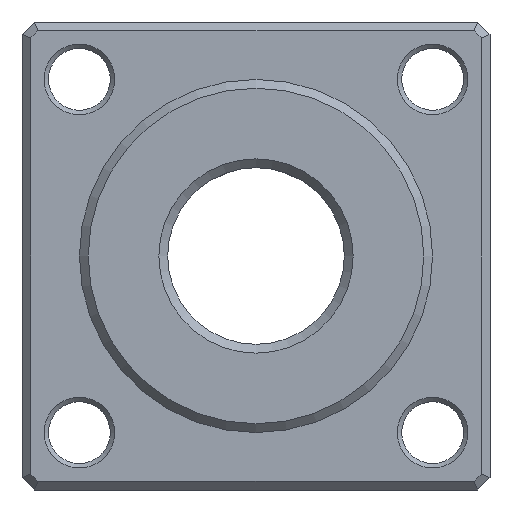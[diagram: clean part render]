
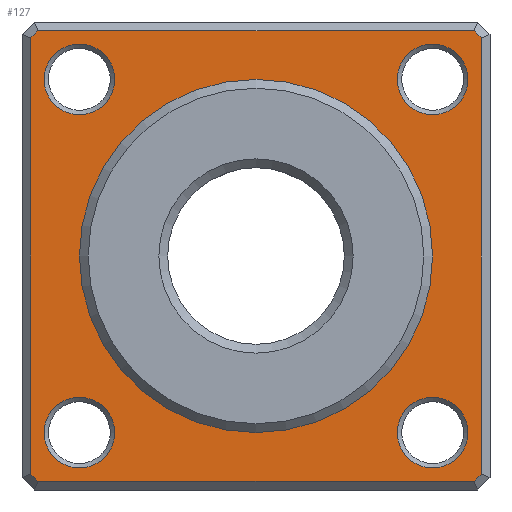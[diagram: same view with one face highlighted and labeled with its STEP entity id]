
A CAD part, left-side view. The second image highlights one B-rep face of the part: STEP entity #127.
In plain terms, the highlighted planar face has unit normal (-1, 0, 0).
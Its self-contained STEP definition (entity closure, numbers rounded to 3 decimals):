
#127=ADVANCED_FACE('',(#199,#200,#201,#202,#203,#204),#205,.F.);
#199=FACE_BOUND('',#363,.T.);
#200=FACE_BOUND('',#364,.T.);
#201=FACE_BOUND('',#365,.T.);
#202=FACE_BOUND('',#366,.T.);
#203=FACE_BOUND('',#367,.T.);
#204=FACE_OUTER_BOUND('',#368,.T.);
#205=PLANE('',#369);
#363=EDGE_LOOP('',(#535));
#364=EDGE_LOOP('',(#536));
#365=EDGE_LOOP('',(#537));
#366=EDGE_LOOP('',(#538));
#367=EDGE_LOOP('',(#539));
#368=EDGE_LOOP('',(#540,#541,#542,#543,#544,#545,#546,#547));
#369=AXIS2_PLACEMENT_3D('',#548,#549,#550);
#535=ORIENTED_EDGE('',*,*,#924,.T.);
#536=ORIENTED_EDGE('',*,*,#925,.T.);
#537=ORIENTED_EDGE('',*,*,#926,.T.);
#538=ORIENTED_EDGE('',*,*,#927,.T.);
#539=ORIENTED_EDGE('',*,*,#923,.F.);
#540=ORIENTED_EDGE('',*,*,#928,.T.);
#541=ORIENTED_EDGE('',*,*,#929,.T.);
#542=ORIENTED_EDGE('',*,*,#930,.T.);
#543=ORIENTED_EDGE('',*,*,#931,.T.);
#544=ORIENTED_EDGE('',*,*,#932,.T.);
#545=ORIENTED_EDGE('',*,*,#933,.T.);
#546=ORIENTED_EDGE('',*,*,#934,.T.);
#547=ORIENTED_EDGE('',*,*,#935,.T.);
#548=CARTESIAN_POINT('',(0.,36.5,0.0));
#549=DIRECTION('',(1.0,0.0,0.0));
#550=DIRECTION('',(0.0,0.0,-1.0));
#923=EDGE_CURVE('',#1038,#1038,#1039,.T.);
#924=EDGE_CURVE('',#1040,#1040,#1041,.T.);
#925=EDGE_CURVE('',#1042,#1042,#1043,.T.);
#926=EDGE_CURVE('',#1044,#1044,#1045,.T.);
#927=EDGE_CURVE('',#1046,#1046,#1047,.T.);
#928=EDGE_CURVE('',#1048,#1049,#1050,.F.);
#929=EDGE_CURVE('',#1049,#1051,#1052,.T.);
#930=EDGE_CURVE('',#1051,#1053,#1054,.F.);
#931=EDGE_CURVE('',#1053,#1055,#1056,.T.);
#932=EDGE_CURVE('',#1055,#1057,#1058,.F.);
#933=EDGE_CURVE('',#1057,#1059,#1060,.T.);
#934=EDGE_CURVE('',#1059,#1061,#1062,.F.);
#935=EDGE_CURVE('',#1061,#1048,#1063,.T.);
#1038=VERTEX_POINT('',#1344);
#1039=CIRCLE('',#1345,20.0);
#1040=VERTEX_POINT('',#1346);
#1041=CIRCLE('',#1347,4.0);
#1042=VERTEX_POINT('',#1348);
#1043=CIRCLE('',#1349,4.0);
#1044=VERTEX_POINT('',#1350);
#1045=CIRCLE('',#1351,4.0);
#1046=VERTEX_POINT('',#1352);
#1047=CIRCLE('',#1353,4.0);
#1048=VERTEX_POINT('',#1354);
#1049=VERTEX_POINT('',#1355);
#1050=CIRCLE('',#1356,35.5);
#1051=VERTEX_POINT('',#1357);
#1052=LINE('',#1358,#1359);
#1053=VERTEX_POINT('',#1360);
#1054=CIRCLE('',#1361,35.5);
#1055=VERTEX_POINT('',#1362);
#1056=LINE('',#1363,#1364);
#1057=VERTEX_POINT('',#1365);
#1058=CIRCLE('',#1366,35.5);
#1059=VERTEX_POINT('',#1367);
#1060=LINE('',#1368,#1369);
#1061=VERTEX_POINT('',#1370);
#1062=CIRCLE('',#1371,35.5);
#1063=LINE('',#1372,#1373);
#1344=CARTESIAN_POINT('',(0.0,0.0,20.0));
#1345=AXIS2_PLACEMENT_3D('',#1621,#1622,#1623);
#1346=CARTESIAN_POINT('',(0.,20.0,16.0));
#1347=AXIS2_PLACEMENT_3D('',#1624,#1625,#1626);
#1348=CARTESIAN_POINT('',(0.,-20.0,16.0));
#1349=AXIS2_PLACEMENT_3D('',#1627,#1628,#1629);
#1350=CARTESIAN_POINT('',(0.,-20.0,-24.0));
#1351=AXIS2_PLACEMENT_3D('',#1630,#1631,#1632);
#1352=CARTESIAN_POINT('',(0.,20.0,-24.0));
#1353=AXIS2_PLACEMENT_3D('',#1633,#1634,#1635);
#1354=CARTESIAN_POINT('',(0.,-24.698,-25.5));
#1355=CARTESIAN_POINT('',(0.,-25.5,-24.698));
#1356=AXIS2_PLACEMENT_3D('',#1636,#1637,#1638);
#1357=CARTESIAN_POINT('',(0.,-25.5,24.698));
#1358=CARTESIAN_POINT('',(0.,-25.5,23.622));
#1359=VECTOR('',#1639,1.0);
#1360=CARTESIAN_POINT('',(0.,-24.698,25.5));
#1361=AXIS2_PLACEMENT_3D('',#1640,#1641,#1642);
#1362=CARTESIAN_POINT('',(0.,24.698,25.5));
#1363=CARTESIAN_POINT('',(0.,23.622,25.5));
#1364=VECTOR('',#1643,1.0);
#1365=CARTESIAN_POINT('',(0.,25.5,24.698));
#1366=AXIS2_PLACEMENT_3D('',#1644,#1645,#1646);
#1367=CARTESIAN_POINT('',(0.,25.5,-24.698));
#1368=CARTESIAN_POINT('',(0.,25.5,-23.622));
#1369=VECTOR('',#1647,1.0);
#1370=CARTESIAN_POINT('',(0.,24.698,-25.5));
#1371=AXIS2_PLACEMENT_3D('',#1648,#1649,#1650);
#1372=CARTESIAN_POINT('',(0.,-23.622,-25.5));
#1373=VECTOR('',#1651,1.0);
#1621=CARTESIAN_POINT('',(0.0,0.0,0.0));
#1622=DIRECTION('',(-1.0,0.0,0.0));
#1623=DIRECTION('',(0.0,0.0,1.0));
#1624=CARTESIAN_POINT('',(0.,20.0,20.0));
#1625=DIRECTION('',(1.0,0.0,0.0));
#1626=DIRECTION('',(0.0,0.0,-1.0));
#1627=CARTESIAN_POINT('',(0.,-20.0,20.0));
#1628=DIRECTION('',(1.0,0.0,0.0));
#1629=DIRECTION('',(0.0,0.0,-1.0));
#1630=CARTESIAN_POINT('',(0.,-20.0,-20.0));
#1631=DIRECTION('',(1.0,0.0,0.0));
#1632=DIRECTION('',(0.0,0.0,-1.0));
#1633=CARTESIAN_POINT('',(0.,20.0,-20.0));
#1634=DIRECTION('',(1.0,0.0,0.0));
#1635=DIRECTION('',(0.0,0.0,-1.0));
#1636=CARTESIAN_POINT('',(0.,0.0,0.0));
#1637=DIRECTION('',(1.0,0.0,0.0));
#1638=DIRECTION('',(0.0,0.0,-1.0));
#1639=DIRECTION('',(0.0,0.0,1.0));
#1640=CARTESIAN_POINT('',(0.,0.0,0.0));
#1641=DIRECTION('',(1.0,0.0,0.0));
#1642=DIRECTION('',(0.0,0.0,-1.0));
#1643=DIRECTION('',(0.0,1.0,0.0));
#1644=CARTESIAN_POINT('',(0.,0.0,0.0));
#1645=DIRECTION('',(1.0,0.0,0.0));
#1646=DIRECTION('',(0.0,0.0,-1.0));
#1647=DIRECTION('',(0.0,0.0,-1.0));
#1648=CARTESIAN_POINT('',(0.,0.0,0.0));
#1649=DIRECTION('',(1.0,0.0,0.0));
#1650=DIRECTION('',(0.0,0.0,-1.0));
#1651=DIRECTION('',(0.0,-1.0,0.0));
